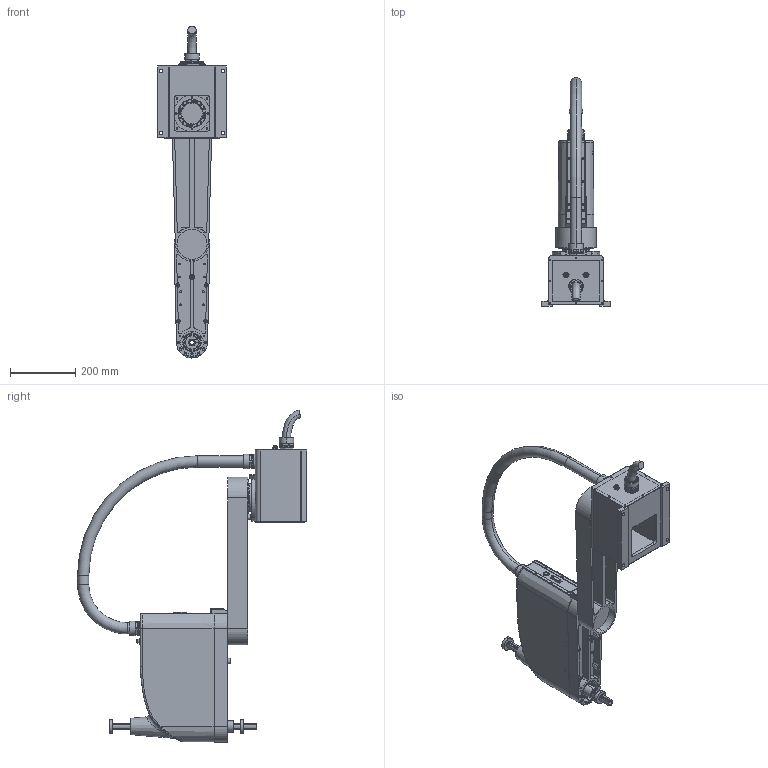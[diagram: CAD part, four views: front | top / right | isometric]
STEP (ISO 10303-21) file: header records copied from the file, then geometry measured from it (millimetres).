
FILE_DESCRIPTION (( 'STEP AP203' ), '1' );
FILE_NAME ('AR7520.STEP', '2019-06-20T02:35:36', ( '微软用户' ), ( '微软中国' ), 'SwSTEP 2.0', 'SolidWorks 2018', '' );
FILE_SCHEMA (( 'CONFIG_CONTROL_DESIGN' ));
Length unit declared in the file: millimetre
Products named in the file (6): AR6-7-8520-Y旋; AR6-7-8520-佪話; AR7520; AR6-7-8520-菁釱; AR7520-援盄奪; AR7520-X旋
Assembly tree (5 placements, depth 2):
  AR7520
    AR6-7-8520-菁釱
    AR7520-援盄奪
    AR7520-X旋
    AR6-7-8520-Y旋
    AR6-7-8520-佪話
Bounding box: 210 x 700 x 1014.72 mm (x, y, z)
Surface area: 1408707.6 mm2 (no closed solid volume)
Topology: 0 solids, 53 shells, 1194 faces, 3644 edges, 2508 vertices
Faces by surface type: cylinder 673, plane 369, cone 104, bspline 24, torus 24
Entity records: 54151 total; most frequent: CARTESIAN_POINT 20142, DIRECTION 7373, ORIENTED_EDGE 6125, EDGE_CURVE 3641, AXIS2_PLACEMENT_3D 2838, VERTEX_POINT 2508, LINE 1697, VECTOR 1697
